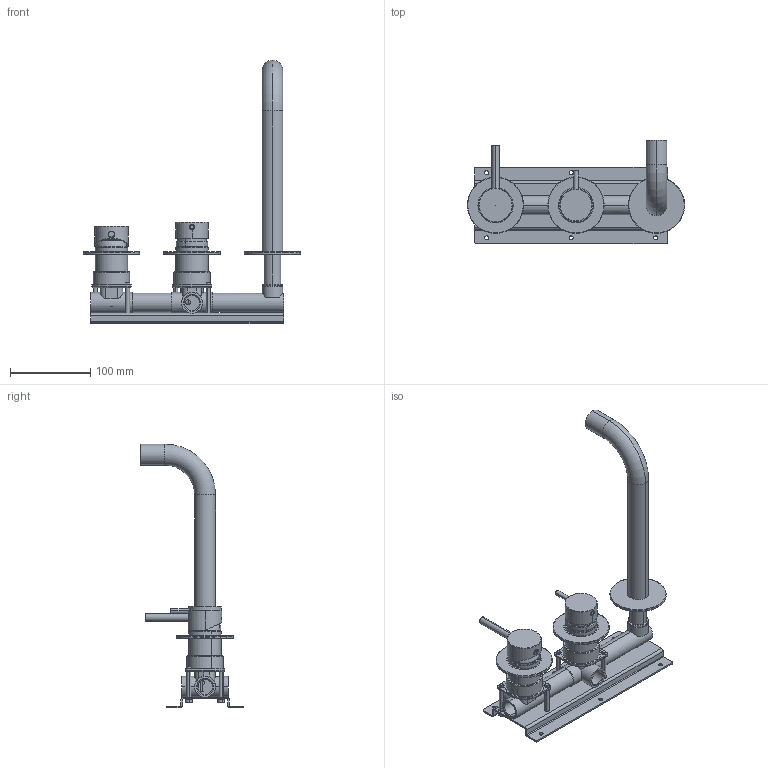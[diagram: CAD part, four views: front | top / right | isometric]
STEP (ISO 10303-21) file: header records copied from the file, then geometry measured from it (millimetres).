
FILE_DESCRIPTION (( 'STEP AP203' ), '1' );
FILE_NAME ('ALN82.STEP', '2024-03-14T07:38:20', ( '' ), ( '' ), 'SwSTEP 2.0', 'SolidWorks 2023', '' );
FILE_SCHEMA (( 'CONFIG_CONTROL_DESIGN' ));
Length unit declared in the file: millimetre
Products named in the file (32): C24.1993.00.0; IST80; C10.00.0015; C11.14.0007; TUBO DI GIUNZIONE VASCA E DOCCIA; C47.00.0023.01; C25.1964.00.0; C10.00.0011; C24.1992.00.0; VITETC5x40; C24.2664.00; C23.1878.01; 1174; C12.00.0036; C24.1966.00.0; 405-40CPA GEDA; CAPP_0; 1174G; C25.1173.00.0; ALN82; 1000; C18.12.0005.01; C12.00.0017; AS757_00; C24.2712.00; EROGATORE VASCA E DOCCIA; C39.00.0033; C11.14.0009; C12.00.0008; C24.1965.00.0; ADATTATORE MEZZO; C47.00.0015
Assembly tree (40 placements, depth 4):
  ALN82
    AS757_00
      C24.1992.00.0
      C25.1173.00.0
      C23.1878.01
      C11.14.0009
      C11.14.0007
      C47.00.0023.01
    C18.12.0005.01
    IST80
      405-40CPA GEDA
        1174G
        EROGATORE VASCA E DOCCIA
        TUBO DI GIUNZIONE VASCA E DOCCIA
        1174
        ADATTATORE MEZZO
      C24.1966.00.0
      C25.1964.00.0
      C24.1965.00.0  x2
      C12.00.0008
      C12.00.0017  x2
      1000  x2
      C47.00.0015  x2
      C10.00.0015
      C10.00.0011
      VITETC5x40  x4
      C24.1993.00.0
      CAPP_0
    C39.00.0033
    C12.00.0036  x2
    C24.2664.00  x2
    C24.2712.00
Bounding box: 269.96 x 127.5 x 327.5 mm (x, y, z)
Volume: 449238.2 mm3; surface area: 275980 mm2
Topology: 42 solids, 43 shells, 1694 faces, 3932 edges, 2395 vertices
Faces by surface type: cylinder 658, plane 634, cone 181, torus 167, sphere 32, bspline 22
Entity records: 44721 total; most frequent: CARTESIAN_POINT 9026, DIRECTION 7303, ORIENTED_EDGE 6270, EDGE_CURVE 3135, AXIS2_PLACEMENT_3D 2934, VERTEX_POINT 1919, EDGE_LOOP 1568, CIRCLE 1530
